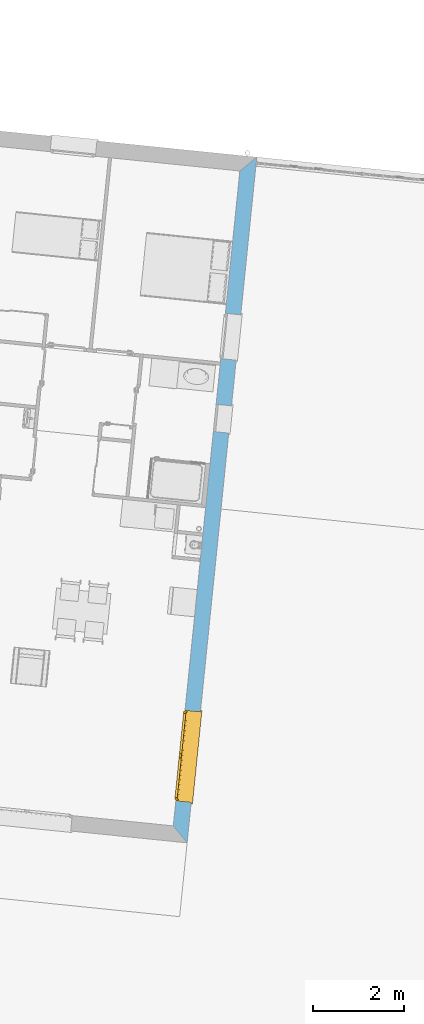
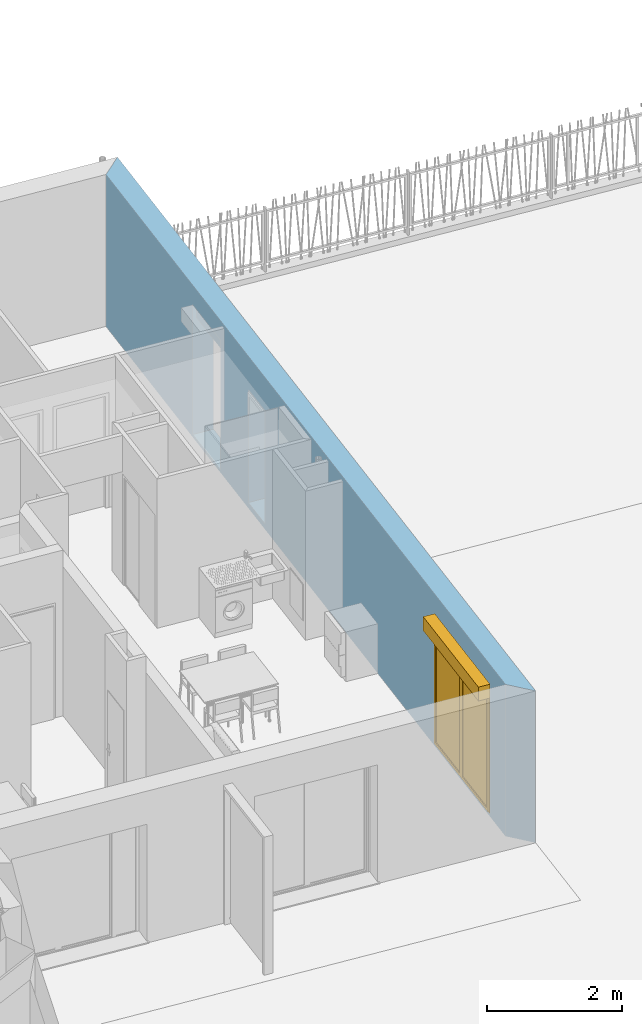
# One storey, part 77 of 171: 1 window, 3 openings, plus 1 element that does not belong to this part.
"""IFC2X3 building model written with IfcOpenShell, lengths in millimetres."""

from ifc_helpers import new_model, entity, si_unit, converted_unit, derived_unit, money_unit, direction, frame, origin_with_axes, origin_2d_with_axis, place, context, subcontext, project, spatial, polyline, rectangle, outline, extrude, open_shell, faceted_brep, surface_model, source, transform, mapped, material, layer, layer_set, layer_usage, type_object, element, fill, save


model = new_model("IFC2X3")

# Units and contexts
model_context = context("Model", 3, precision=0.01, world=origin_with_axes(), true_north=direction((0.0, 1.0)))
body_context = subcontext(model_context, "Body", "Model", "MODEL_VIEW")
ifc_project = project(units=[si_unit("LENGTHUNIT", "METRE", prefix="MILLI"), si_unit("AREAUNIT", "SQUARE_METRE"), si_unit("VOLUMEUNIT", "CUBIC_METRE"), converted_unit("PLANEANGLEUNIT", "DEGREE", entity("IfcPlaneAngleMeasure", 0.0174532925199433), si_unit("PLANEANGLEUNIT", "RADIAN"), dimensions=[0, 0, 0, 0, 0, 0, 0]), money_unit("USD"), converted_unit("TIMEUNIT", "Year", entity("IfcTimeMeasure", 31557600.0), si_unit("TIMEUNIT", "SECOND"), dimensions=[0, 0, 1, 0, 0, 0, 0]), si_unit("MASSUNIT", "GRAM", prefix="KILO"), si_unit("THERMODYNAMICTEMPERATUREUNIT", "DEGREE_CELSIUS"), si_unit("LUMINOUSINTENSITYUNIT", "LUMEN"), si_unit("ENERGYUNIT", "JOULE", prefix="MEGA"), derived_unit("THERMALCONDUCTANCEUNIT", [(si_unit("POWERUNIT", "WATT"), 1), (si_unit("LENGTHUNIT", "METRE"), -1), (si_unit("THERMODYNAMICTEMPERATUREUNIT", "KELVIN"), -1)]), derived_unit("SPECIFICHEATCAPACITYUNIT", [(si_unit("ENERGYUNIT", "JOULE"), 1), (si_unit("MASSUNIT", "GRAM", prefix="KILO"), -1), (si_unit("THERMODYNAMICTEMPERATUREUNIT", "KELVIN"), -1)]), derived_unit("MASSDENSITYUNIT", [(si_unit("MASSUNIT", "GRAM", prefix="KILO"), 1), (si_unit("VOLUMEUNIT", "CUBIC_METRE"), -1)])], contexts=[model_context])

# Site, building, storey
site_placement = place(None, origin_with_axes())
site = spatial("IfcSite", under=ifc_project, at=site_placement, Name="Site", CompositionType="ELEMENT")
building_placement = place(site_placement, origin_with_axes())
building = spatial("IfcBuilding", under=site, at=building_placement, Name="Bâtiment", CompositionType="ELEMENT")
storey_placement = place(building_placement, frame((0.0, 0.0, 3000.0), z_axis=(0.0, 0.0, 1.0), x_axis=(1.0, 0.0, 0.0)))
storey = spatial("IfcBuildingStorey", under=building, at=storey_placement, Name="rdc", CompositionType="ELEMENT", Elevation=3000.0)

# Wall, openings, window
ifc_material_1 = material(Name="Parpaing 312445824")
ifc_layer_1 = layer(ifc_material_1, 180.0, ventilated="UNKNOWN")
ifc_material_2 = material(Name="Isolant styromousse 301821074")
ifc_layer_2 = layer(ifc_material_2, 160.0, ventilated="UNKNOWN")
ifc_layer_set = layer_set([ifc_layer_1, ifc_layer_2], Name="isol int 18+16 0018356637")
ifc_layer_usage = layer_usage(ifc_layer_set, "AXIS2", "NEGATIVE", 0.0)
wall_type = type_object("IfcWallType", Name="isol int 18+16 0018356637 340", PredefinedType="NOTDEFINED")
wall_placement = place(storey_placement, frame((2240182.946874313, -606236.1516955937, 0.0), z_axis=(0.0, 0.0, 1.0), x_axis=(-0.1011032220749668, -0.9948759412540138, 0.0)))
wall = element("IfcWallStandardCase", 1, at=wall_placement, inside=storey, type_object=wall_type, material=ifc_layer_usage, Name="Mur-142", context=body_context, shape_type="SweptSolid", body=[
    extrude(outline(polyline([(339.9999999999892, -340.0000000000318), (14791.61370310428, -340.0000000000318), (15131.61370310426, -1.13686837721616e-10), (0.0, 0.0), (339.9999999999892, -340.0000000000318)])), origin_with_axes(), (0.0, 0.0, 1.0), 2750.0),
])
opening_1_placement = place(wall_placement, frame((13239.30937232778, -3.410605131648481e-10, 49.99999999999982), z_axis=(0.0, 0.0, 1.0), x_axis=(1.0, 0.0, 0.0)))
opening_1 = element("IfcOpeningElement", 2, at=opening_1_placement, cuts=wall, Name="Fen-207", context=body_context, shape_type="Brep", body=[
    faceted_brep([(-999.999999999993, -289.9999999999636, 2100.0), (-999.999999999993, -279.9999999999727, 2100.0), (-1000.0, 1523.015834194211, 2100.0), (-1000.0, 1523.015834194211, 0.0), (-999.9999999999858, -289.9999999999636, 0.0), (-999.9999999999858, -529.9999999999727, 2100.0), (-999.9999999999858, -529.9999999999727, 2350.0), (-999.999999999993, -279.9999999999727, 2350.0), (1000.0, -279.999999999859, 2100.0), (1000.000000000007, 1523.015834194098, 2100.0), (1000.000000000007, 1523.015834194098, 0.0), (1000.000000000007, -289.9999999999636, 0.0), (999.999999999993, -1863.015834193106, 0.0), (-999.999999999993, -1863.01583419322, 0.0), (-999.999999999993, -1863.01583419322, 2100.0), (1000.000000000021, -529.999999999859, 2100.0), (1000.000000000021, -529.999999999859, 2350.0), (1000.0, -279.999999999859, 2350.0), (1000.000000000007, -289.9999999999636, 2100.0), (999.999999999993, -1863.015834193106, 2100.0)], [[[0, 1, 2, 3, 4]], [[1, 0, 5, 6, 7]], [[1, 8, 9, 2]], [[9, 10, 3, 2]], [[4, 3, 10, 11, 12, 13]], [[5, 0, 4, 13, 14]], [[5, 15, 16, 6]], [[16, 17, 7, 6]], [[8, 1, 7, 17]], [[8, 18, 11, 10, 9]], [[18, 15, 19, 12, 11]], [[14, 13, 12, 19]], [[15, 5, 14, 19]], [[18, 8, 17, 16, 15]]]),
])
opening_2_placement = place(wall_placement, frame((3980.394196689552, -2.273736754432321e-10, 49.99999999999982), z_axis=(0.0, 0.0, 1.0), x_axis=(1.0, 0.0, 0.0)))
element("IfcOpeningElement", 3, at=opening_2_placement, cuts=wall, Name="Fen-133", context=body_context, shape_type="Brep", body=[
    faceted_brep([(-500.0000000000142, -290.0000000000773, 2100.0), (-500.0000000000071, -279.9999999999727, 2100.0), (-499.9999999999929, 1523.015834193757, 2100.0), (-499.9999999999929, 1523.015834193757, 0.0), (-500.0, -290.0000000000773, 0.0), (-499.9999999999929, -529.9999999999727, 2100.0), (-499.9999999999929, -529.9999999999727, 2350.0), (-500.0000000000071, -279.9999999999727, 2350.0), (500.0, -279.9999999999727, 2100.0), (500.0, 1523.01583419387, 2100.0), (500.0, 1523.01583419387, 0.0), (499.9999999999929, -290.0000000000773, 0.0), (499.9999999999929, -1863.01583419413, 0.0), (-499.9999999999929, -1863.01583419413, 0.0), (-499.9999999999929, -1863.01583419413, 2100.0), (499.9999999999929, -529.9999999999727, 2100.0), (499.9999999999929, -529.9999999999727, 2350.0), (500.0, -279.9999999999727, 2350.0), (499.9999999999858, -290.0000000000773, 2100.0), (499.9999999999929, -1863.01583419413, 2100.0)], [[[0, 1, 2, 3, 4]], [[1, 0, 5, 6, 7]], [[1, 8, 9, 2]], [[9, 10, 3, 2]], [[4, 3, 10, 11, 12, 13]], [[5, 0, 4, 13, 14]], [[5, 15, 16, 6]], [[16, 17, 7, 6]], [[8, 1, 7, 17]], [[8, 18, 11, 10, 9]], [[18, 15, 19, 12, 11]], [[14, 13, 12, 19]], [[15, 5, 14, 19]], [[18, 8, 17, 16, 15]]]),
])
opening_3_placement = place(wall_placement, frame((5788.845141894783, -3.410605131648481e-10, 100.0000000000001), z_axis=(0.0, 0.0, 1.0), x_axis=(1.0, 0.0, 0.0)))
element("IfcOpeningElement", 4, at=opening_3_placement, cuts=wall, Name="Fen-133", context=body_context, shape_type="SweptSolid", body=[
    extrude(rectangle(XDim=600.0000000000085, YDim=2050.0, at=origin_2d_with_axis()), frame((0.0, -290.0000000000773, 1025.0), z_axis=(0.0, -1.0, 0.0), x_axis=(-1.0, 0.0, 0.0)), (0.0, 0.0, -1.0), 629.9999999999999),
    extrude(rectangle(XDim=600.0000000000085, YDim=2050.0, at=origin_2d_with_axis()), frame((0.0, -290.0000000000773, 1025.0), z_axis=(0.0, 1.0, 0.0), x_axis=(-1.0, 0.0, 0.0)), (0.0, 0.0, -1.0), 389.9999999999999),
])
window_style = type_object("IfcWindowStyle", Name="Fenêtre châssis double variable 27", ConstructionType="NOTDEFINED", OperationType="DOUBLE_PANEL_VERTICAL", ParameterTakesPrecedence=False, Sizeable=False)
shared_shape = source(origin_with_axes(), body_context, "Body", "SurfaceModel", [
    surface_model("IfcShellBasedSurfaceModel", [(-1000.0, -51.00000000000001, 40.00000000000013), (1000.0, -51.00000000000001, 40.0), (1000.0, -51.00000000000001, 50.0), (-1000.0, -51.00000000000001, 50.00000000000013), (-1030.0, -369.9999999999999, 28.96551724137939), (1030.0, -369.9999999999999, 28.96551724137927), (1030.0, -339.9999999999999, 30.00324289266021), (1000.0, -339.9999999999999, 30.00324289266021), (-1000.0, -339.9999999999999, 30.00324289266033), (-1030.0, -339.9999999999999, 30.00324289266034), (-1030.0, -369.9999999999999, 8.965517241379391), (1030.0, -369.9999999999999, 8.965517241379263), (-1030.0, -359.9999999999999, 18.96551724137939), (1030.0, -359.9999999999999, 18.96551724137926)], [open_shell([[[0, 1, 2, 3]], [[4, 5, 6, 7, 1, 0, 8, 9]], [[10, 11, 5, 4]], [[12, 13, 11, 10]]])]),
    faceted_brep([(1000.0, -60.00000000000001, 2350.0), (1000.0, 190.0, 2350.0), (997.0, 190.0, 2350.0), (997.0, -60.00000000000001, 2350.0), (1000.0, -60.00000000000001, 2100.0), (1000.0, 190.0, 2100.0), (997.0, 190.0, 2100.0), (997.0, -60.00000000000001, 2100.0)], [[[0, 1, 2, 3]], [[0, 4, 5, 1]], [[1, 5, 6, 2]], [[3, 2, 6, 7]], [[4, 0, 3, 7]], [[5, 4, 7, 6]]]),
    faceted_brep([(-997.0000000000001, -59.99999999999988, 2350.0), (-997.0000000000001, 190.0000000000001, 2350.0), (-1000.0, 190.0000000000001, 2350.0), (-1000.0, -59.99999999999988, 2350.0), (-997.0000000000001, -59.99999999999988, 2100.0), (-997.0000000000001, 190.0000000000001, 2100.0), (-1000.0, 190.0000000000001, 2100.0), (-1000.0, -59.99999999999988, 2100.0)], [[[0, 1, 2, 3]], [[0, 4, 5, 1]], [[1, 5, 6, 2]], [[3, 2, 6, 7]], [[4, 0, 3, 7]], [[5, 4, 7, 6]]]),
    faceted_brep([(997.0, -60.0, 2100.0), (997.0, -60.0, 2350.0), (-997.0, -59.99999999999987, 2350.0), (-997.0, -59.99999999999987, 2100.0), (997.0, -56.99999999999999, 2100.0), (997.0, -56.99999999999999, 2347.0), (997.0, 187.0, 2347.0), (997.0, 187.0, 2103.0), (997.0, -37.99999999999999, 2103.0), (997.0, -37.99999999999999, 2100.0), (997.0, 190.0, 2100.0), (997.0, 190.0, 2350.0), (-997.0, 190.0000000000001, 2350.0), (-997.0, 190.0000000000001, 2100.0), (-997.0, -37.99999999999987, 2100.0), (-997.0, -37.99999999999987, 2103.0), (-997.0, 187.0000000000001, 2103.0), (-997.0, 187.0000000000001, 2347.0), (-997.0, -56.99999999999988, 2347.0), (-997.0, -56.99999999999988, 2100.0)], [[[0, 1, 2, 3]], [[0, 4, 5, 6, 7, 8, 9, 10, 11, 1]], [[1, 11, 12, 2]], [[3, 2, 12, 13, 14, 15, 16, 17, 18, 19]], [[4, 0, 3, 19]], [[5, 4, 19, 18]], [[6, 5, 18, 17]], [[7, 6, 17, 16]], [[8, 7, 16, 15]], [[9, 8, 15, 14]], [[10, 9, 14, 13]], [[11, 10, 13, 12]]]),
    faceted_brep([(994.0, -40.37442957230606, 2206.419644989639), (994.0, -35.54711042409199, 2188.403844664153), (994.0, -27.66471820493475, 2171.5), (994.0, -16.9667554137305, 2156.22172576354), (994.0, -3.778274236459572, 2143.03324458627), (994.0, 11.50000000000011, 2132.335281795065), (994.0, 28.40384466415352, 2124.452889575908), (994.0, 46.4196449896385, 2119.625570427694), (994.0, 65.00000000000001, 2118.0), (994.0, 83.58035501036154, 2119.625570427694), (994.0, 101.5961553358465, 2124.452889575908), (994.0, 118.4999999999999, 2132.335281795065), (994.0, 133.7782742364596, 2143.03324458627), (994.0, 146.9667554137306, 2156.22172576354), (994.0, 157.6647182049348, 2171.5), (994.0, 165.5471104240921, 2188.403844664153), (994.0, 170.3744295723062, 2206.419644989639), (994.0, 171.9999999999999, 2225.0), (994.0, 170.3744295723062, 2243.580355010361), (994.0, 165.5471104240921, 2261.596155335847), (994.0, 157.6647182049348, 2278.5), (994.0, 146.9667554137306, 2293.77827423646), (994.0, 133.7782742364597, 2306.966755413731), (994.0, 118.5, 2317.664718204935), (994.0, 101.5961553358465, 2325.547110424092), (994.0, 83.58035501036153, 2330.374429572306), (994.0, 64.99999999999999, 2332.0), (994.0, 46.41964498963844, 2330.374429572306), (994.0, 28.40384466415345, 2325.547110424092), (994.0, 11.5, 2317.664718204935), (994.0, -3.778274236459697, 2306.966755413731), (994.0, -16.96675541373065, 2293.77827423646), (994.0, -27.66471820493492, 2278.5), (994.0, -35.54711042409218, 2261.596155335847), (994.0, -40.37442957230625, 2243.580355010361), (994.0, -41.99999999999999, 2225.0), (-994.0, -40.37442957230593, 2206.419644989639), (-994.0, -35.54711042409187, 2188.403844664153), (-994.0, -27.66471820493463, 2171.5), (-994.0, -16.96675541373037, 2156.22172576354), (-994.0, -3.778274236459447, 2143.03324458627), (-994.0, 11.50000000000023, 2132.335281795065), (-994.0, 28.40384466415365, 2124.452889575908), (-994.0, 46.41964498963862, 2119.625570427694), (-994.0, 65.00000000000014, 2118.0), (-994.0, 83.58035501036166, 2119.625570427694), (-994.0, 101.5961553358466, 2124.452889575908), (-994.0, 118.5000000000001, 2132.335281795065), (-994.0, 133.7782742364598, 2143.03324458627), (-994.0, 146.9667554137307, 2156.22172576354), (-994.0, 157.6647182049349, 2171.5), (-994.0, 165.5471104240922, 2188.403844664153), (-994.0, 170.3744295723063, 2206.419644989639), (-994.0, 172.0, 2225.0), (-994.0, 170.3744295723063, 2243.580355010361), (-994.0, 165.5471104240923, 2261.596155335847), (-994.0, 157.664718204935, 2278.5), (-994.0, 146.9667554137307, 2293.77827423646), (-994.0, 133.7782742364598, 2306.966755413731), (-994.0, 118.5000000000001, 2317.664718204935), (-994.0, 101.5961553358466, 2325.547110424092), (-994.0, 83.58035501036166, 2330.374429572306), (-994.0, 65.00000000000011, 2332.0), (-994.0, 46.41964498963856, 2330.374429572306), (-994.0, 28.40384466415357, 2325.547110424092), (-994.0, 11.50000000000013, 2317.664718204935), (-994.0, -3.778274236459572, 2306.966755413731), (-994.0, -16.96675541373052, 2293.77827423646), (-994.0, -27.6647182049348, 2278.5), (-994.0, -35.54711042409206, 2261.596155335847), (-994.0, -40.37442957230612, 2243.580355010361), (-994.0, -41.99999999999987, 2225.0)], [[[0, 1, 2, 3, 4, 5, 6, 7, 8, 9, 10, 11, 12, 13, 14, 15, 16, 17, 18, 19, 20, 21, 22, 23, 24, 25, 26, 27, 28, 29, 30, 31, 32, 33, 34, 35]], [[1, 0, 36, 37]], [[2, 1, 37, 38]], [[3, 2, 38, 39]], [[4, 3, 39, 40]], [[5, 4, 40, 41]], [[6, 5, 41, 42]], [[7, 6, 42, 43]], [[8, 7, 43, 44]], [[9, 8, 44, 45]], [[10, 9, 45, 46]], [[11, 10, 46, 47]], [[12, 11, 47, 48]], [[13, 12, 48, 49]], [[14, 13, 49, 50]], [[15, 14, 50, 51]], [[16, 15, 51, 52]], [[17, 16, 52, 53]], [[18, 17, 53, 54]], [[19, 18, 54, 55]], [[20, 19, 55, 56]], [[21, 20, 56, 57]], [[22, 21, 57, 58]], [[23, 22, 58, 59]], [[24, 23, 59, 60]], [[25, 24, 60, 61]], [[26, 25, 61, 62]], [[27, 26, 62, 63]], [[28, 27, 63, 64]], [[29, 28, 64, 65]], [[30, 29, 65, 66]], [[31, 30, 66, 67]], [[32, 31, 67, 68]], [[33, 32, 68, 69]], [[34, 33, 69, 70]], [[35, 34, 70, 71]], [[0, 35, 71, 36]], [[36, 71, 70, 69, 68, 67, 66, 65, 64, 63, 62, 61, 60, 59, 58, 57, 56, 55, 54, 53, 52, 51, 50, 49, 48, 47, 46, 45, 44, 43, 42, 41, 40, 39, 38, 37]]]),
    faceted_brep([(-1000.0, -34.99999999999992, 30.0), (-1000.0, -59.99999999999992, 30.0), (-1000.0, -59.99999999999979, 2100.0), (-1000.0, -34.99999999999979, 2100.0), (-975.0, -34.99999999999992, 30.0), (-975.0, -37.99999999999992, 30.0), (-997.0, -37.99999999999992, 30.0), (-997.0, -56.99999999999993, 30.0), (-975.0, -56.99999999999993, 30.0), (-975.0, -59.99999999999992, 30.0), (-975.0, -59.99999999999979, 2100.0), (-975.0, -56.99999999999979, 2100.0), (-997.0, -56.99999999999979, 2100.0), (-997.0, -37.99999999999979, 2100.0), (-975.0, -37.99999999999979, 2100.0), (-975.0, -34.99999999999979, 2100.0)], [[[0, 1, 2, 3]], [[0, 4, 5, 6, 7, 8, 9, 1]], [[1, 9, 10, 2]], [[3, 2, 10, 11, 12, 13, 14, 15]], [[4, 0, 3, 15]], [[5, 4, 15, 14]], [[6, 5, 14, 13]], [[7, 6, 13, 12]], [[8, 7, 12, 11]], [[9, 8, 11, 10]]]),
    faceted_brep([(1000.0, -34.99999999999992, 30.0), (1000.0, -34.99999999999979, 2100.0), (1000.0, -59.99999999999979, 2100.0), (1000.0, -59.99999999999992, 30.0), (975.0, -34.99999999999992, 30.0), (975.0, -34.99999999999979, 2100.0), (975.0, -37.99999999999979, 2100.0), (997.0, -37.99999999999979, 2100.0), (997.0, -56.99999999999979, 2100.0), (975.0, -56.99999999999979, 2100.0), (975.0, -59.99999999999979, 2100.0), (975.0, -59.99999999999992, 30.0), (975.0, -56.99999999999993, 30.0), (997.0, -56.99999999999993, 30.0), (997.0, -37.99999999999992, 30.0), (975.0, -37.99999999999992, 30.0)], [[[0, 1, 2, 3]], [[4, 5, 1, 0]], [[1, 5, 6, 7, 8, 9, 10, 2]], [[3, 2, 10, 11]], [[0, 3, 11, 12, 13, 14, 15, 4]], [[15, 6, 5, 4]], [[14, 7, 6, 15]], [[13, 8, 7, 14]], [[12, 9, 8, 13]], [[11, 10, 9, 12]]]),
    faceted_brep([(-997.0, -46.66666666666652, 2225.0), (997.0, -46.66666666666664, 2225.0), (997.0, -46.66666666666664, 2216.666666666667), (-997.0, -46.66666666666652, 2216.666666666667), (-997.0, -51.66666666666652, 2225.0), (997.0, -51.66666666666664, 2225.0), (997.0, -51.66666666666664, 2216.666666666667), (997.0, -49.99999999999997, 2200.0), (997.0, -44.99999999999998, 2200.0), (-997.0, -44.99999999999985, 2200.0), (-997.0, -49.99999999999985, 2200.0), (-997.0, -51.66666666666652, 2216.666666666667)], [[[0, 1, 2, 3]], [[1, 0, 4, 5]], [[1, 5, 6, 7, 8, 2]], [[2, 8, 9, 3]], [[4, 0, 3, 9, 10, 11]], [[6, 5, 4, 11]], [[7, 6, 11, 10]], [[8, 7, 10, 9]]]),
    faceted_brep([(997.0, -44.99999999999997, 2200.0), (997.0, -46.66666666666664, 2183.333333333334), (-997.0, -46.66666666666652, 2183.333333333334), (-997.0, -44.99999999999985, 2200.0), (997.0, -49.99999999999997, 2200.0), (997.0, -51.66666666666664, 2183.333333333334), (997.0, -51.66666666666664, 2166.666666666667), (997.0, -49.99999999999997, 2150.000000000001), (997.0, -44.99999999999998, 2150.000000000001), (997.0, -46.66666666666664, 2166.666666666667), (-997.0, -46.66666666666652, 2166.666666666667), (-997.0, -44.99999999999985, 2150.000000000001), (-997.0, -49.99999999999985, 2150.000000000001), (-997.0, -51.66666666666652, 2166.666666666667), (-997.0, -51.66666666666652, 2183.333333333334), (-997.0, -49.99999999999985, 2200.0)], [[[0, 1, 2, 3]], [[0, 4, 5, 6, 7, 8, 9, 1]], [[1, 9, 10, 2]], [[3, 2, 10, 11, 12, 13, 14, 15]], [[4, 0, 3, 15]], [[5, 4, 15, 14]], [[6, 5, 14, 13]], [[7, 6, 13, 12]], [[8, 7, 12, 11]], [[9, 8, 11, 10]]]),
    faceted_brep([(997.0, -44.99999999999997, 2150.000000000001), (997.0, -46.66666666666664, 2133.333333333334), (-997.0, -46.66666666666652, 2133.333333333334), (-997.0, -44.99999999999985, 2150.000000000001), (997.0, -49.99999999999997, 2150.000000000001), (997.0, -51.66666666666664, 2133.333333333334), (997.0, -51.66666666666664, 2116.666666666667), (997.0, -49.99999999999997, 2100.000000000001), (997.0, -44.99999999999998, 2100.000000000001), (997.0, -46.66666666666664, 2116.666666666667), (-997.0, -46.66666666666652, 2116.666666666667), (-997.0, -44.99999999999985, 2100.000000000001), (-997.0, -49.99999999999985, 2100.000000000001), (-997.0, -51.66666666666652, 2116.666666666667), (-997.0, -51.66666666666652, 2133.333333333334), (-997.0, -49.99999999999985, 2150.000000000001)], [[[0, 1, 2, 3]], [[0, 4, 5, 6, 7, 8, 9, 1]], [[1, 9, 10, 2]], [[3, 2, 10, 11, 12, 13, 14, 15]], [[4, 0, 3, 15]], [[5, 4, 15, 14]], [[6, 5, 14, 13]], [[7, 6, 13, 12]], [[8, 7, 12, 11]], [[9, 8, 11, 10]]]),
    faceted_brep([(975.0, 0.0, 2050.0), (975.0, -25.00000000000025, 2050.0), (950.0, -25.00000000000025, 2050.0), (950.0, -50.00000000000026, 2050.0), (1000.0, -50.00000000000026, 2050.0), (1000.0, 0.0, 2050.0), (975.0, 0.0, 50.00000000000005), (975.0, -25.00000000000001, 50.00000000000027), (950.0, -25.00000000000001, 50.00000000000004), (950.0, -50.00000000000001, 50.00000000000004), (1000.0, -50.00000000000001, 50.00000000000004), (1000.0, 0.0, 50.00000000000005)], [[[0, 1, 2, 3, 4, 5]], [[1, 0, 6, 7]], [[8, 2, 1, 7]], [[2, 8, 9, 3]], [[4, 3, 9, 10]], [[5, 4, 10, 11]], [[6, 0, 5, 11]], [[7, 6, 11, 10, 9, 8]]]),
    faceted_brep([(-950.0, -25.00000000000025, 2050.0), (-975.0, -25.00000000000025, 2050.0), (-975.0, 0.0, 2050.0), (-1000.0, 0.0, 2050.0), (-1000.0, -50.00000000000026, 2050.0), (-950.0, -50.00000000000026, 2050.0), (-950.0, -25.00000000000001, 50.00000000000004), (-975.0, -25.00000000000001, 50.00000000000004), (-975.0, 0.0, 50.00000000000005), (-1000.0, 0.0, 50.00000000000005), (-1000.0, -50.00000000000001, 50.00000000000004), (-950.0, -50.00000000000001, 50.00000000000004)], [[[0, 1, 2, 3, 4, 5]], [[1, 0, 6, 7]], [[8, 2, 1, 7]], [[2, 8, 9, 3]], [[9, 10, 4, 3]], [[10, 11, 5, 4]], [[6, 0, 5, 11]], [[7, 6, 11, 10, 9, 8]]]),
    faceted_brep([(-950.0, -25.00000000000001, 50.00000000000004), (-975.0, -25.00000000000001, 50.00000000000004), (-975.0, 0.0, 50.00000000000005), (-1000.0, 0.0, 50.00000000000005), (-1000.0, -50.00000000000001, 50.00000000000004), (-950.0, -50.00000000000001, 50.00000000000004), (950.0, -25.00000000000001, 50.00000000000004), (975.0, -25.00000000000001, 50.00000000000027), (975.0, -25.0, 24.99999999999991), (-975.0, -25.0, 24.99999999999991), (-975.0, 0.0, 24.99999999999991), (975.0, 0.0, 24.99999999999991), (975.0, 0.0, 50.00000000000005), (1000.0, 0.0, 50.00000000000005), (1000.0, 0.0, 0.0), (-1000.0, 0.0, 0.0), (-1000.0, -50.0, 0.0), (1000.0, -50.00000000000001, 50.00000000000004), (950.0, -50.00000000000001, 50.00000000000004), (1000.0, -50.0, 0.0)], [[[0, 1, 2, 3, 4, 5]], [[1, 0, 6, 7, 8, 9]], [[10, 2, 1, 9]], [[11, 12, 13, 14, 15, 3, 2, 10]], [[15, 16, 4, 3]], [[17, 18, 5, 4, 16, 19]], [[6, 0, 5, 18]], [[7, 6, 18, 17, 13, 12]], [[7, 12, 11, 8]], [[11, 10, 9, 8]], [[13, 17, 19, 14]], [[14, 19, 16, 15]]]),
    faceted_brep([(975.0, 0.0, 2050.0), (975.0, 0.0, 2075.0), (-975.0, 0.0, 2075.0), (-975.0, 0.0, 2050.0), (-1000.0, 0.0, 2050.0), (-1000.0, 0.0, 2100.0), (1000.0, 0.0, 2100.0), (1000.0, 0.0, 2050.0), (975.0, -25.00000000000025, 2050.0), (975.0, -25.00000000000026, 2075.0), (-975.0, -25.00000000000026, 2075.0), (-975.0, -25.00000000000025, 2050.0), (-950.0, -25.00000000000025, 2050.0), (-950.0, -50.00000000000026, 2050.0), (-1000.0, -50.00000000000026, 2050.0), (-1000.0, -50.00000000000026, 2100.0), (1000.0, -50.00000000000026, 2100.0), (1000.0, -50.00000000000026, 2050.0), (950.0, -50.00000000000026, 2050.0), (950.0, -25.00000000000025, 2050.0)], [[[0, 1, 2, 3, 4, 5, 6, 7]], [[1, 0, 8, 9]], [[2, 1, 9, 10]], [[3, 2, 10, 11]], [[11, 12, 13, 14, 4, 3]], [[4, 14, 15, 5]], [[5, 15, 16, 6]], [[6, 16, 17, 7]], [[8, 0, 7, 17, 18, 19]], [[12, 11, 10, 9, 8, 19]], [[12, 19, 18, 13]], [[14, 13, 18, 17, 16, 15]]]),
    faceted_brep([(925.0, -25.00000000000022, 2025.0), (975.0, -25.00000000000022, 2025.0), (975.0, 24.99999999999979, 2025.0), (925.0, 24.99999999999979, 2025.0), (925.0, -24.99999999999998, 75.00000000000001), (975.0, -24.99999999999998, 75.00000000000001), (975.0, 25.00000000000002, 75.00000000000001), (925.0, 25.00000000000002, 75.00000000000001)], [[[0, 1, 2, 3]], [[0, 4, 5, 1]], [[1, 5, 6, 2]], [[3, 2, 6, 7]], [[4, 0, 3, 7]], [[5, 4, 7, 6]]]),
    faceted_brep([(49.99999999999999, -25.00000000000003, 75.00000000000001), (0.0, -25.00000000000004, 75.00000000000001), (0.0, 24.99999999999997, 75.00000000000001), (49.99999999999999, 24.99999999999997, 75.00000000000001), (49.99999999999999, -25.00000000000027, 2025.0), (0.0, -25.00000000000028, 2025.0), (0.0, 24.99999999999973, 2025.0), (49.99999999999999, 24.99999999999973, 2025.0)], [[[0, 1, 2, 3]], [[0, 4, 5, 1]], [[1, 5, 6, 2]], [[3, 2, 6, 7]], [[4, 0, 3, 7]], [[5, 4, 7, 6]]]),
    faceted_brep([(0.0, -25.00000000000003, 25.0), (0.0, -25.00000000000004, 75.00000000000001), (0.0, 24.99999999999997, 75.00000000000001), (0.0, 24.99999999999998, 25.00000000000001), (975.0, -24.99999999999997, 25.0), (975.0, -24.99999999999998, 75.00000000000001), (925.0, -24.99999999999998, 75.00000000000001), (49.99999999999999, -25.00000000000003, 75.00000000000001), (49.99999999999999, 24.99999999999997, 75.00000000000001), (925.0, 25.00000000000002, 75.00000000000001), (975.0, 25.00000000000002, 75.00000000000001), (975.0, 25.00000000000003, 25.00000000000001)], [[[0, 1, 2, 3]], [[0, 4, 5, 6, 7, 1]], [[1, 7, 8, 2]], [[3, 2, 8, 9, 10, 11]], [[4, 0, 3, 11]], [[5, 4, 11, 10]], [[6, 5, 10, 9]], [[7, 6, 9, 8]]]),
    faceted_brep([(975.0, -25.00000000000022, 2075.0), (975.0, -25.00000000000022, 2025.0), (975.0, 24.99999999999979, 2025.0), (975.0, 24.99999999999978, 2075.0), (0.0, -25.00000000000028, 2075.0), (0.0, -25.00000000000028, 2025.0), (49.99999999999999, -25.00000000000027, 2025.0), (925.0, -25.00000000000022, 2025.0), (925.0, 24.99999999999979, 2025.0), (49.99999999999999, 24.99999999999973, 2025.0), (0.0, 24.99999999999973, 2025.0), (0.0, 24.99999999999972, 2075.0)], [[[0, 1, 2, 3]], [[0, 4, 5, 6, 7, 1]], [[1, 7, 8, 2]], [[3, 2, 8, 9, 10, 11]], [[4, 0, 3, 11]], [[5, 4, 11, 10]], [[6, 5, 10, 9]], [[7, 6, 9, 8]]]),
    surface_model("IfcShellBasedSurfaceModel", [(925.0, -10.00000000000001, 75.00000000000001), (925.0, -10.00000000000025, 2025.0), (49.99999999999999, -10.00000000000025, 2025.0), (49.99999999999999, -10.00000000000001, 75.00000000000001)], [open_shell([[[0, 1, 2, 3]]])]),
    surface_model("IfcShellBasedSurfaceModel", [(925.0, 9.999999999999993, 75.00000000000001), (49.99999999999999, 9.999999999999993, 75.00000000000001), (49.99999999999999, 9.999999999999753, 2025.0), (925.0, 9.999999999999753, 2025.0)], [open_shell([[[0, 1, 2, 3]]])]),
    faceted_brep([(-49.99999999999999, -25.00000000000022, 2025.0), (0.0, -25.00000000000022, 2025.0), (0.0, 24.99999999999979, 2025.0), (-49.99999999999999, 24.99999999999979, 2025.0), (-49.99999999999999, -24.99999999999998, 75.00000000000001), (0.0, -24.99999999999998, 75.00000000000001), (0.0, 25.00000000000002, 75.00000000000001), (-49.99999999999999, 25.00000000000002, 75.00000000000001)], [[[0, 1, 2, 3]], [[0, 4, 5, 1]], [[1, 5, 6, 2]], [[3, 2, 6, 7]], [[4, 0, 3, 7]], [[5, 4, 7, 6]]]),
    faceted_brep([(-925.0, -25.00000000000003, 75.00000000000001), (-975.0, -25.00000000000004, 75.00000000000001), (-975.0, 24.99999999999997, 75.00000000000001), (-925.0, 24.99999999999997, 75.00000000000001), (-925.0, -25.00000000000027, 2025.0), (-975.0, -25.00000000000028, 2025.0), (-975.0, 24.99999999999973, 2025.0), (-925.0, 24.99999999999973, 2025.0)], [[[0, 1, 2, 3]], [[0, 4, 5, 1]], [[1, 5, 6, 2]], [[3, 2, 6, 7]], [[4, 0, 3, 7]], [[5, 4, 7, 6]]]),
    faceted_brep([(-975.0, -25.00000000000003, 25.0), (-975.0, -25.00000000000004, 75.00000000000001), (-975.0, 24.99999999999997, 75.00000000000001), (-975.0, 24.99999999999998, 25.00000000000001), (0.0, -24.99999999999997, 25.0), (0.0, -24.99999999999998, 75.00000000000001), (-49.99999999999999, -24.99999999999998, 75.00000000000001), (-925.0, -25.00000000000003, 75.00000000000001), (-925.0, 24.99999999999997, 75.00000000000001), (-49.99999999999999, 25.00000000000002, 75.00000000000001), (0.0, 25.00000000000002, 75.00000000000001), (0.0, 25.00000000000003, 25.00000000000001)], [[[0, 1, 2, 3]], [[0, 4, 5, 6, 7, 1]], [[1, 7, 8, 2]], [[3, 2, 8, 9, 10, 11]], [[4, 0, 3, 11]], [[5, 4, 11, 10]], [[6, 5, 10, 9]], [[7, 6, 9, 8]]]),
    faceted_brep([(0.0, -25.00000000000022, 2075.0), (0.0, -25.00000000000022, 2025.0), (0.0, 24.99999999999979, 2025.0), (0.0, 24.99999999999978, 2075.0), (-975.0, -25.00000000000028, 2075.0), (-975.0, -25.00000000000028, 2025.0), (-925.0, -25.00000000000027, 2025.0), (-49.99999999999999, -25.00000000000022, 2025.0), (-49.99999999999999, 24.99999999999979, 2025.0), (-925.0, 24.99999999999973, 2025.0), (-975.0, 24.99999999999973, 2025.0), (-975.0, 24.99999999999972, 2075.0)], [[[0, 1, 2, 3]], [[0, 4, 5, 6, 7, 1]], [[1, 7, 8, 2]], [[3, 2, 8, 9, 10, 11]], [[4, 0, 3, 11]], [[5, 4, 11, 10]], [[6, 5, 10, 9]], [[7, 6, 9, 8]]]),
    surface_model("IfcShellBasedSurfaceModel", [(-49.99999999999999, -10.00000000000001, 75.00000000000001), (-49.99999999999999, -10.00000000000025, 2025.0), (-925.0, -10.00000000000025, 2025.0), (-925.0, -10.00000000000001, 75.00000000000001)], [open_shell([[[0, 1, 2, 3]]])]),
    surface_model("IfcShellBasedSurfaceModel", [(-49.99999999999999, 9.999999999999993, 75.00000000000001), (-925.0, 9.999999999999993, 75.00000000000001), (-925.0, 9.999999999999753, 2025.0), (-49.99999999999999, 9.999999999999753, 2025.0)], [open_shell([[[0, 1, 2, 3]]])]),
])
window_placement = place(opening_1_placement, frame((999.999999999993, 1.13686837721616e-10, 0.0), z_axis=(0.0, 0.0, 1.0), x_axis=(-1.0, 0.0, 0.0)))
window = element("IfcWindow", 5, at=window_placement, inside=storey, type_object=window_style, Name="Fen-207", OverallHeight=2100.0, OverallWidth=2000.0, context=body_context, shape_type="MappedRepresentation", body=[
    mapped(shared_shape, transform((1000.0, 340.0000000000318, 0.0))),
])
fill(opening_1, window)

save(model, "model.ifc")
